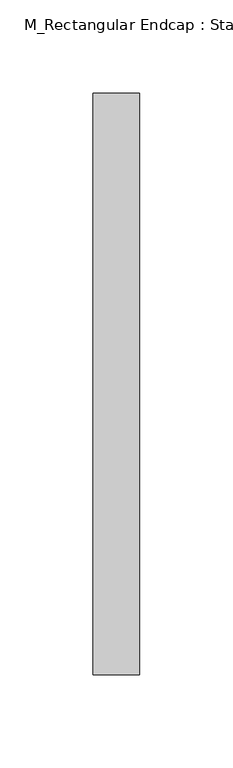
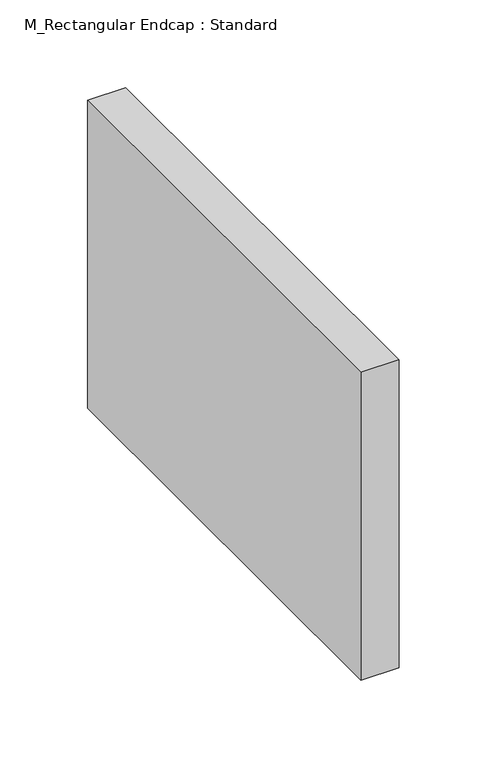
"""IFC4 building model written with IfcOpenShell, lengths in millimetres: duct fitting geometry, M_Rectangular Endcap : Standard."""

from ifc_helpers import new_model, si_unit, frame, origin, place, context, project, spatial, polyline, outline, extrude, source, transform, mapped, element, save


def m_rectangular_endcap_standard_8fce0436(model_context):
    return source(origin(), model_context, "Body", "SweptSolid", [
        extrude(outline(polyline([(0.0, -155.9375), (0.0, 155.9375), (25.0, 155.9375), (25.0, -155.9375), (0.0, -155.9375)])), frame((0.0, 0.0, -107.15), z_axis=(0.0, 0.0, 1.0), x_axis=(1.0, 0.0, 0.0)), (0.0, 0.0, 1.0), 214.3),
    ])


if __name__ == "__main__":
    model = new_model("IFC4")
    model_context = context("Model", 3, world=origin())
    ifc_project = project(units=[si_unit("LENGTHUNIT", "METRE", prefix="MILLI")], contexts=[model_context])
    site = spatial("IfcSite", under=ifc_project)
    building = spatial("IfcBuilding", under=site)
    placement = place(None, origin())
    m_rectangular_endcap_standard_shape = m_rectangular_endcap_standard_8fce0436(model_context)
    element("IfcDuctFitting", 1, ObjectType="M_Rectangular Endcap : Standard", at=placement, inside=building, context=model_context, shape_type="MappedRepresentation", body=[
        mapped(m_rectangular_endcap_standard_shape, transform((0.0, 0.0, 0.0), x_axis=(1.0, 0.0, 0.0), y_axis=(0.0, 1.0, 0.0), z_axis=(0.0, 0.0, 1.0))),
    ])
    save(model, "model.ifc")
